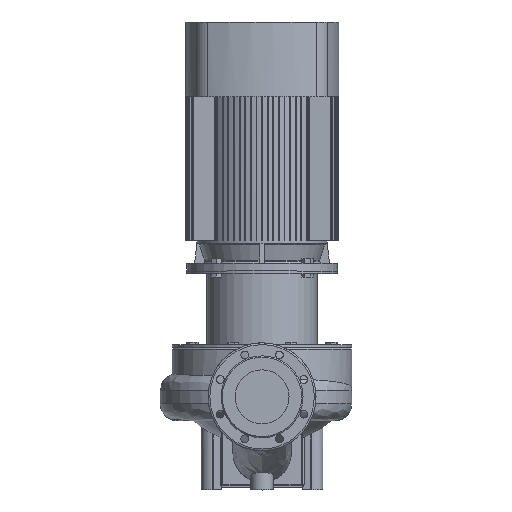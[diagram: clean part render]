
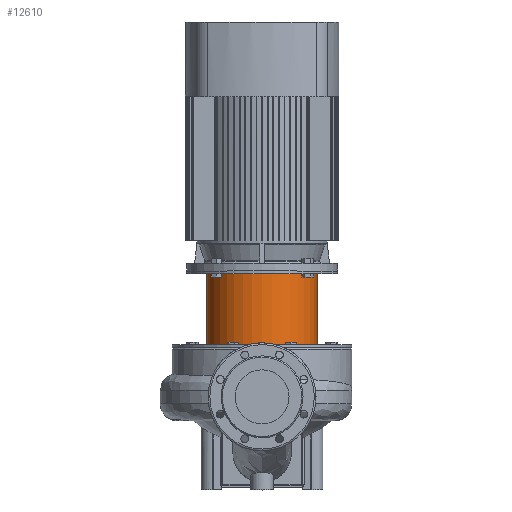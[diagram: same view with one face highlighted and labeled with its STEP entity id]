
A CAD part, top view. The second image highlights one B-rep face of the part: STEP entity #12610.
In plain terms, the highlighted cylindrical face has radius 128 mm (diameter 256 mm), a partial arc.
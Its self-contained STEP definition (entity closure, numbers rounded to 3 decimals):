
#1029 = VERTEX_POINT ( 'NONE', #14375 ) ;
#1333 = ORIENTED_EDGE ( 'NONE', *, *, #21380, .F. ) ;
#1563 = CARTESIAN_POINT ( 'NONE',  ( 0., 0., -171. ) ) ;
#1579 = AXIS2_PLACEMENT_3D ( 'NONE', #4962, #7035, #14511 ) ;
#3476 = ORIENTED_EDGE ( 'NONE', *, *, #30205, .T. ) ;
#4033 = CYLINDRICAL_SURFACE ( 'NONE', #1579, 128. ) ;
#4653 = CARTESIAN_POINT ( 'NONE',  ( -128., 0., -171. ) ) ;
#4962 = CARTESIAN_POINT ( 'NONE',  ( 0., 0., 14.36 ) ) ;
#5561 = CIRCLE ( 'NONE', #30967, 128. ) ;
#6387 = DIRECTION ( 'NONE',  ( 1., 0., 0. ) ) ;
#6598 = CARTESIAN_POINT ( 'NONE',  ( 128., 0., -6. ) ) ;
#6637 = VERTEX_POINT ( 'NONE', #19327 ) ;
#7035 = DIRECTION ( 'NONE',  ( 0., 0., 1. ) ) ;
#8811 = CARTESIAN_POINT ( 'NONE',  ( 128., 0., 14.36 ) ) ;
#10204 = DIRECTION ( 'NONE',  ( 0., 0., 1. ) ) ;
#11011 = CARTESIAN_POINT ( 'NONE',  ( 0., 0., -6. ) ) ;
#11280 = DIRECTION ( 'NONE',  ( 0., 0., 1. ) ) ;
#12610 = ADVANCED_FACE ( 'NONE', ( #25854 ), #4033, .T. ) ;
#12612 = LINE ( 'NONE', #12762, #22668 ) ;
#12762 = CARTESIAN_POINT ( 'NONE',  ( -128., 0., 14.36 ) ) ;
#14375 = CARTESIAN_POINT ( 'NONE',  ( -128., 0., -6. ) ) ;
#14511 = DIRECTION ( 'NONE',  ( 1., 0., 0. ) ) ;
#14686 = VECTOR ( 'NONE', #18527, 1000. ) ;
#15376 = CIRCLE ( 'NONE', #21994, 128. ) ;
#15924 = DIRECTION ( 'NONE',  ( 0., 0., 1. ) ) ;
#16160 = ORIENTED_EDGE ( 'NONE', *, *, #29624, .T. ) ;
#18046 = ORIENTED_EDGE ( 'NONE', *, *, #24715, .F. ) ;
#18234 = VERTEX_POINT ( 'NONE', #6598 ) ;
#18527 = DIRECTION ( 'NONE',  ( 0., 0., 1. ) ) ;
#19327 = CARTESIAN_POINT ( 'NONE',  ( 128., 0., -171. ) ) ;
#21074 = EDGE_LOOP ( 'NONE', ( #18046, #3476, #16160, #1333 ) ) ;
#21380 = EDGE_CURVE ( 'NONE', #1029, #18234, #15376, .T. ) ;
#21994 = AXIS2_PLACEMENT_3D ( 'NONE', #11011, #15924, #6387 ) ;
#22668 = VECTOR ( 'NONE', #10204, 1000. ) ;
#22785 = DIRECTION ( 'NONE',  ( 1., 0., 0. ) ) ;
#24715 = EDGE_CURVE ( 'NONE', #28295, #1029, #12612, .T. ) ;
#25854 = FACE_OUTER_BOUND ( 'NONE', #21074, .T. ) ;
#28295 = VERTEX_POINT ( 'NONE', #4653 ) ;
#29624 = EDGE_CURVE ( 'NONE', #6637, #18234, #30471, .T. ) ;
#30205 = EDGE_CURVE ( 'NONE', #28295, #6637, #5561, .T. ) ;
#30471 = LINE ( 'NONE', #8811, #14686 ) ;
#30967 = AXIS2_PLACEMENT_3D ( 'NONE', #1563, #11280, #22785 ) ;
